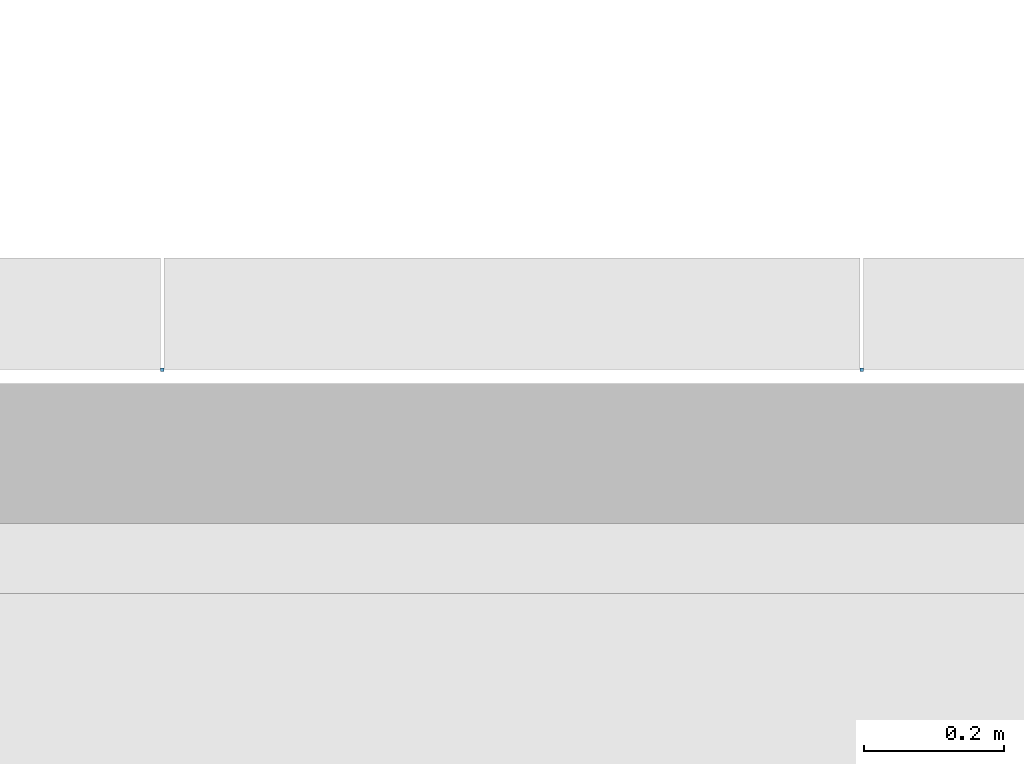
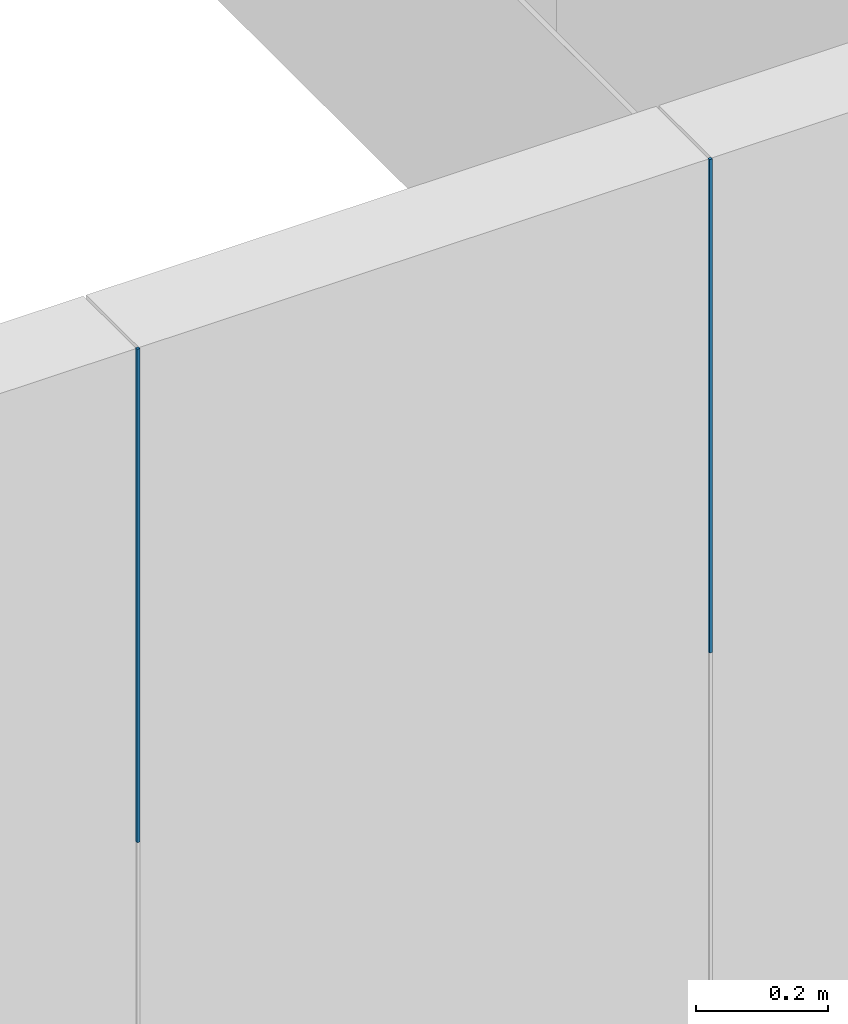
# One storey, part 201 of 302: 2 members, 1 element without a shape of its own.
"""IFC2X3 building model written with IfcOpenShell, lengths in metres."""

import ifcopenshell
import ifcopenshell.guid

model = None  # the IFC model being written
_history = None  # IfcOwnerHistory: only IFC2X3 demands one
_inside = {}  # id of a spatial element -> (the spatial element, [elements in it])
_under = {}  # id of a project, library or spatial element -> (it, [spatial elements below it])
_declared = {}  # id of a project -> (the project, [libraries it declares])
_typed = {}  # id of a type object -> (the type object, [elements of that type])
_made_of = {}  # id of a material, layer set ... -> (it, [elements and type objects made of it])


def new_model(schema):
    """Start an empty IFC model of exactly this schema.

    Asked for "IFC4X3", IfcOpenShell would pick the latest addendum, in which some entities
    have other attributes; the version numbers below select the first issue.
    IFC2X3 requires an IfcOwnerHistory on every rooted entity: one is made here for all.
    """
    global model, _history
    if schema == "IFC4X3":
        model = ifcopenshell.file(schema_version=(4, 3, 0, 0))
    else:
        model = ifcopenshell.file(schema=schema)
    _inside.clear()
    _under.clear()
    _declared.clear()
    _typed.clear()
    _made_of.clear()
    _history = None
    if model.schema == "IFC2X3":
        org = make("IfcOrganization", Name="unknown")
        user = make(
            "IfcPersonAndOrganization",
            ThePerson=make("IfcPerson", FamilyName="unknown"),
            TheOrganization=org,
        )
        app = make(
            "IfcApplication",
            ApplicationDeveloper=org,
            Version="unknown",
            ApplicationFullName="unknown",
            ApplicationIdentifier="unknown",
        )
        _history = make(
            "IfcOwnerHistory",
            OwningUser=user,
            OwningApplication=app,
            ChangeAction="ADDED",
            CreationDate=0,
        )
    return model


def make(cls, **values):
    """One entity of the class cls with the attributes given. An attribute that is None is left unset."""
    return model.create_entity(
        cls, **{name: value for name, value in values.items() if value is not None}
    )


def entity(cls, *values):
    """Any entity or typed value of the class cls, its attributes in the order of the schema. None: left unset."""
    e = model.create_entity(cls)
    for i, value in enumerate(values):
        if value is not None:
            e[i] = value
    return e


def rooted(cls, **values):
    """An entity with a GlobalId (a new one), such as an element, a storey or a relation."""
    return make(cls, GlobalId=ifcopenshell.guid.new(), OwnerHistory=_history, **values)


def si_unit(unit_type, name, prefix=None):
    """IfcSIUnit, for example si_unit("LENGTHUNIT", "METRE", prefix="MILLI")."""
    return make("IfcSIUnit", UnitType=unit_type, Prefix=prefix, Name=name)


def converted_unit(unit_type, name, factor, base, dimensions=None, offset=None):
    """IfcConversionBasedUnit, such as the inch: factor (a typed value) times the base unit."""
    return make(
        "IfcConversionBasedUnit"
        if offset is None
        else "IfcConversionBasedUnitWithOffset",
        ConversionOffset=offset,
        Dimensions=None
        if dimensions is None
        else entity("IfcDimensionalExponents", *dimensions),
        UnitType=unit_type,
        Name=name,
        ConversionFactor=make(
            "IfcMeasureWithUnit", ValueComponent=factor, UnitComponent=base
        ),
    )


def derived_unit(unit_type, elements):
    """IfcDerivedUnit: a product of units, each with its exponent."""
    return make(
        "IfcDerivedUnit",
        Elements=[
            make("IfcDerivedUnitElement", Unit=unit, Exponent=power)
            for unit, power in elements
        ],
        UnitType=unit_type,
    )


def assignment(units):
    """IfcUnitAssignment: the units of a project."""
    return None if units is None else make("IfcUnitAssignment", Units=units)


def point(xyz):
    """IfcCartesianPoint."""
    return None if xyz is None else make("IfcCartesianPoint", Coordinates=xyz)


def direction(xyz):
    """IfcDirection."""
    return None if xyz is None else make("IfcDirection", DirectionRatios=xyz)


def frame(location, z_axis=None, x_axis=None):
    """IfcAxis2Placement3D, a coordinate frame: its origin and axes. An axis left out is left unset."""
    return make(
        "IfcAxis2Placement3D",
        Location=point(location),
        Axis=direction(z_axis),
        RefDirection=direction(x_axis),
    )


def frame_2d(location, x_axis=None):
    """IfcAxis2Placement2D, a coordinate frame in the plane: its origin and x axis."""
    return make(
        "IfcAxis2Placement2D", Location=point(location), RefDirection=direction(x_axis)
    )


def origin():
    """The frame at (0, 0, 0) with its axes left unset."""
    return frame((0.0, 0.0, 0.0))


def place(relative_to, where):
    """IfcLocalPlacement: puts the frame where relative to a parent placement (None: the world)."""
    return make(
        "IfcLocalPlacement", PlacementRelTo=relative_to, RelativePlacement=where
    )


def context(
    kind, dimensions, precision=None, world=None, true_north=None, identifier=None
):
    """IfcGeometricRepresentationContext, for example the 3D "Model" context."""
    return make(
        "IfcGeometricRepresentationContext",
        ContextIdentifier=identifier,
        ContextType=kind,
        CoordinateSpaceDimension=dimensions,
        Precision=precision,
        WorldCoordinateSystem=world,
        TrueNorth=true_north,
    )


def subcontext(parent, identifier, kind, view, scale=None):
    """IfcGeometricRepresentationSubContext, for example "Body" below "Model"."""
    return make(
        "IfcGeometricRepresentationSubContext",
        ContextIdentifier=identifier,
        ContextType=kind,
        ParentContext=parent,
        TargetScale=scale,
        TargetView=view,
    )


def project(units=None, contexts=None):
    """IfcProject with its units and contexts."""
    return rooted(
        "IfcProject",
        Name="project",
        RepresentationContexts=contexts,
        UnitsInContext=assignment(units),
    )


def spatial(cls, under=None, at=None, **own):
    """A site, building, storey or space (cls), placed at a placement, below another one or the project."""
    s = rooted(cls, ObjectPlacement=at, **own)
    if under is not None:
        _under.setdefault(under.id(), (under, []))[1].append(s)
    return s


def profile(cls, at=None, kind="AREA", **sizes):
    """A parametric profile (cls). Its sizes go by their IFC names, for example OverallWidth=200.0."""
    return make(cls, ProfileType=kind, Position=at, **sizes)


def rectangle(**sizes):
    """IfcRectangleProfileDef."""
    return profile("IfcRectangleProfileDef", **sizes)


def extrude(swept, where, along, depth):
    """IfcExtrudedAreaSolid: the profile swept, set in the frame where, extruded along a direction by depth."""
    return make(
        "IfcExtrudedAreaSolid",
        SweptArea=swept,
        Position=where,
        ExtrudedDirection=direction(along),
        Depth=depth,
    )


def shape(context_of_items, identifier, shape_type, items):
    """IfcShapeRepresentation: the items that make up one representation, for example the "Body"."""
    return make(
        "IfcShapeRepresentation",
        ContextOfItems=context_of_items,
        RepresentationIdentifier=identifier,
        RepresentationType=shape_type,
        Items=items,
    )


def source(mapping_origin, context_of_items, identifier, shape_type, items):
    """IfcRepresentationMap: a shape defined once, which mapped items show again and again."""
    return make(
        "IfcRepresentationMap",
        MappingOrigin=mapping_origin,
        MappedRepresentation=shape(context_of_items, identifier, shape_type, items),
    )


def transform(
    local_origin,
    x_axis=None,
    y_axis=None,
    z_axis=None,
    scale=None,
    scale2=None,
    scale3=None,
    uniform=True,
):
    """IfcCartesianTransformationOperator3D, or its non-uniform kind. x_axis, y_axis, z_axis: its Axis1, 2, 3."""
    if uniform:
        return make(
            "IfcCartesianTransformationOperator3D",
            Axis1=direction(x_axis),
            Axis2=direction(y_axis),
            LocalOrigin=point(local_origin),
            Scale=scale,
            Axis3=direction(z_axis),
        )
    return make(
        "IfcCartesianTransformationOperator3DnonUniform",
        Axis1=direction(x_axis),
        Axis2=direction(y_axis),
        LocalOrigin=point(local_origin),
        Scale=scale,
        Axis3=direction(z_axis),
        Scale2=scale2,
        Scale3=scale3,
    )


def mapped(mapping_source, mapping_target):
    """IfcMappedItem: shows the shape of a source again, moved by a transform."""
    return make(
        "IfcMappedItem", MappingSource=mapping_source, MappingTarget=mapping_target
    )


def material(Name=None, Category=None):
    """IfcMaterial."""
    return make("IfcMaterial", Name=Name, Category=Category)


def made_of(thing, what):
    """Note that an element or type object is made of a material, layer set ...; save() writes the relation."""
    if what is not None:
        _made_of.setdefault(what.id(), (what, []))[1].append(thing)
    return thing


def type_object(cls, material=None, **own):
    """A type object (cls), such as IfcWallType, which elements share."""
    return made_of(rooted(cls, **own), material)


def type_shapes(of_type, sources):
    """Give a type object the sources (RepresentationMaps) that its elements show as mapped items."""
    of_type.RepresentationMaps = sources


def element(
    cls,
    number,
    at=None,
    inside=None,
    cuts=None,
    type_object=None,
    material=None,
    context=None,
    identifier="Body",
    shape_type=None,
    held_by="IfcProductDefinitionShape",
    body=None,
    shapes=None,
    **own,
):
    """One element of the class cls, such as IfcWall. Its Tag is "e" and its number.

    at: its placement. inside: the storey or other place that contains it. cuts: it is an
    opening in that element (IfcRelVoidsElement). A single representation is given by context,
    identifier, shape_type and body (its items); several are given by shapes. held_by: the class
    of the entity that holds the representations. save() writes the other relations.
    """
    e = rooted(cls, Tag="e%d" % number, ObjectPlacement=at, **own)
    if body is not None:
        shapes = [shape(context, identifier, shape_type, body)]
    if shapes is not None:
        e.Representation = make(held_by, Representations=shapes)
    if inside is not None:
        _inside.setdefault(inside.id(), (inside, []))[1].append(e)
    if cuts is not None:
        rooted(
            "IfcRelVoidsElement", RelatingBuildingElement=cuts, RelatedOpeningElement=e
        )
    if type_object is not None:
        _typed.setdefault(type_object.id(), (type_object, []))[1].append(e)
    return made_of(e, material)


def aggregate(whole, parts):
    """IfcRelAggregates: a whole, such as a stair, and the parts it consists of."""
    return rooted("IfcRelAggregates", RelatingObject=whole, RelatedObjects=parts)


def save(model, path):
    """Write the relations noted so far, then the file.

    IfcRelAggregates (storeys below a building ...), IfcRelContainedInSpatialStructure (elements
    in a storey), IfcRelDefinesByType, IfcRelAssociatesMaterial and IfcRelDeclares: one each for
    every whole, place, type object, material and project.
    """
    for whole, parts in _under.values():
        aggregate(whole, parts)
    for where, things in _inside.values():
        rooted(
            "IfcRelContainedInSpatialStructure",
            RelatedElements=things,
            RelatingStructure=where,
        )
    for kind, things in _typed.values():
        rooted("IfcRelDefinesByType", RelatedObjects=things, RelatingType=kind)
    for what, things in _made_of.values():
        rooted("IfcRelAssociatesMaterial", RelatedObjects=things, RelatingMaterial=what)
    for by, libraries in _declared.values():
        rooted("IfcRelDeclares", RelatingContext=by, RelatedDefinitions=libraries)
    model.write(path)


model = new_model("IFC2X3")

# Units and contexts
model_context = context("Model", 3, precision=1e-05, world=origin(), true_north=direction((6.12303176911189e-17, 1.0)))
body_context = subcontext(model_context, "Body", "Model", "MODEL_VIEW")
ifc_project = project(units=[si_unit("LENGTHUNIT", "METRE"), si_unit("AREAUNIT", "SQUARE_METRE"), si_unit("VOLUMEUNIT", "CUBIC_METRE"), converted_unit("PLANEANGLEUNIT", "DEGREE", entity("IfcRatioMeasure", 0.0174532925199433), si_unit("PLANEANGLEUNIT", "RADIAN"), dimensions=[0, 0, 0, 0, 0, 0, 0]), si_unit("MASSUNIT", "GRAM", prefix="KILO"), derived_unit("MASSDENSITYUNIT", [(si_unit("MASSUNIT", "GRAM", prefix="KILO"), 1), (si_unit("LENGTHUNIT", "METRE"), -3)]), derived_unit("MOMENTOFINERTIAUNIT", [(si_unit("LENGTHUNIT", "METRE"), 4)]), si_unit("TIMEUNIT", "SECOND"), si_unit("FREQUENCYUNIT", "HERTZ"), si_unit("THERMODYNAMICTEMPERATUREUNIT", "DEGREE_CELSIUS"), derived_unit("THERMALTRANSMITTANCEUNIT", [(si_unit("MASSUNIT", "GRAM", prefix="KILO"), 1), (si_unit("THERMODYNAMICTEMPERATUREUNIT", "KELVIN"), -1), (si_unit("TIMEUNIT", "SECOND"), -3)]), derived_unit("VOLUMETRICFLOWRATEUNIT", [(si_unit("LENGTHUNIT", "METRE"), 3), (si_unit("TIMEUNIT", "SECOND"), -1)]), si_unit("ELECTRICCURRENTUNIT", "AMPERE"), si_unit("ELECTRICVOLTAGEUNIT", "VOLT"), si_unit("POWERUNIT", "WATT"), si_unit("FORCEUNIT", "NEWTON", prefix="KILO"), si_unit("ILLUMINANCEUNIT", "LUX"), si_unit("LUMINOUSFLUXUNIT", "LUMEN"), si_unit("LUMINOUSINTENSITYUNIT", "CANDELA"), derived_unit("USERDEFINED", [(si_unit("MASSUNIT", "GRAM", prefix="KILO"), -1), (si_unit("LENGTHUNIT", "METRE"), -2), (si_unit("TIMEUNIT", "SECOND"), 3), (si_unit("LUMINOUSFLUXUNIT", "LUMEN"), 1)]), derived_unit("LINEARVELOCITYUNIT", [(si_unit("LENGTHUNIT", "METRE"), 1), (si_unit("TIMEUNIT", "SECOND"), -1)]), si_unit("PRESSUREUNIT", "PASCAL"), derived_unit("USERDEFINED", [(si_unit("LENGTHUNIT", "METRE"), -2), (si_unit("MASSUNIT", "GRAM", prefix="KILO"), 1), (si_unit("TIMEUNIT", "SECOND"), -2)]), derived_unit("LINEARFORCEUNIT", [(si_unit("MASSUNIT", "GRAM", prefix="KILO"), 1), (si_unit("LENGTHUNIT", "METRE"), 1), (si_unit("TIMEUNIT", "SECOND"), -2), (si_unit("LENGTHUNIT", "METRE"), -1)]), derived_unit("PLANARFORCEUNIT", [(si_unit("MASSUNIT", "GRAM", prefix="KILO"), 1), (si_unit("LENGTHUNIT", "METRE"), 1), (si_unit("TIMEUNIT", "SECOND"), -2), (si_unit("LENGTHUNIT", "METRE"), -2)])], contexts=[model_context])

# Site, building, storey
site_placement = place(None, origin())
site = spatial("IfcSite", under=ifc_project, at=site_placement, Name="Default", CompositionType="ELEMENT")
building_placement = place(site_placement, origin())
building = spatial("IfcBuilding", under=site, at=building_placement, CompositionType="ELEMENT")
storey_placement = place(building_placement, frame((0.0, 0.0, -1.3)))
storey = spatial("IfcBuildingStorey", under=building, at=storey_placement, Name="00_EG", CompositionType="ELEMENT", Elevation=-1.3)

# Curtain wall, members
curtain_wall_type = type_object("IfcCurtainWallType", Name="Fassade:Curtain Wall 1", PredefinedType="NOTDEFINED")
curtain_wall_placement = place(storey_placement, frame((0.0, 0.0, 1.3)))
curtain_wall = element("IfcCurtainWall", 1, at=curtain_wall_placement, inside=storey, type_object=curtain_wall_type, Name="Fassade:Curtain Wall 1", ObjectType="Fassade:Curtain Wall 1")
ifc_material = material(Name="Aluminium")
member_type = type_object("IfcMemberType", Name="Rectangular Mullion:Paneele Spalt", PredefinedType="MULLION", material=ifc_material)
shared_shape = source(origin(), body_context, "Body", "SweptSolid", [
    extrude(rectangle(XDim=0.005, YDim=0.005, at=frame_2d((0.0, -6.50521303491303e-19), x_axis=(1.0, 0.0))), frame((0.0, 0.0, -0.911252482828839), z_axis=(0.0, 0.0, 1.0), x_axis=(0.0, -1.0, 0.0)), (0.0, 0.0, 1.0), 0.911252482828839),
])
type_shapes(member_type, [shared_shape])
member_1_placement = place(storey_placement, frame((-214.610111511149, 45.578088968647, 10.2096475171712), z_axis=(0.0, 0.0, -1.0), x_axis=(-1.0, 0.0, 0.0)))
member_1 = element("IfcMember", 2, at=member_1_placement, type_object=member_type, material=ifc_material, Name="Rectangular Mullion:Paneele Spalt", ObjectType="Rectangular Mullion:Paneele Spalt", context=body_context, shape_type="MappedRepresentation", body=[
    mapped(shared_shape, transform((0.0, 0.0, 0.0), scale=1.0)),
])
member_2_placement = place(storey_placement, frame((-215.610111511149, 45.578088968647, 10.2096475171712), z_axis=(0.0, 0.0, -1.0), x_axis=(-1.0, 0.0, 0.0)))
member_2 = element("IfcMember", 3, at=member_2_placement, type_object=member_type, material=ifc_material, Name="Rectangular Mullion:Paneele Spalt", ObjectType="Rectangular Mullion:Paneele Spalt", context=body_context, shape_type="MappedRepresentation", body=[
    mapped(shared_shape, transform((0.0, 0.0, 0.0), scale=1.0)),
])
aggregate(curtain_wall, [member_1, member_2])

save(model, "model.ifc")
